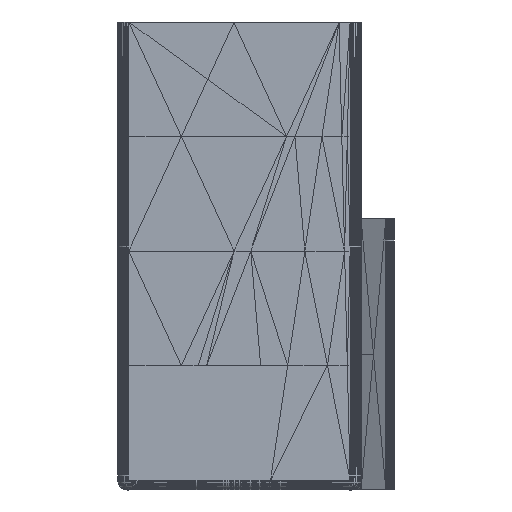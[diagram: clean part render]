
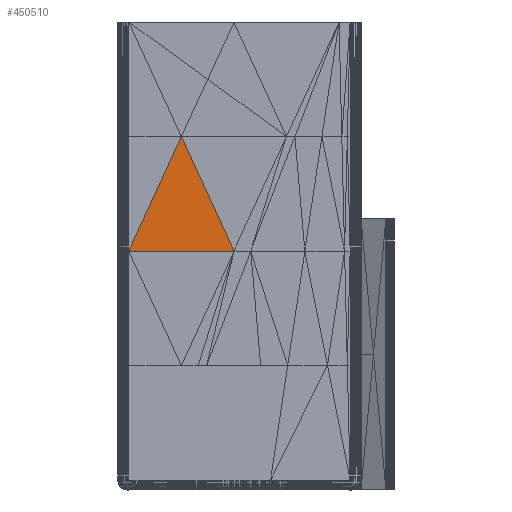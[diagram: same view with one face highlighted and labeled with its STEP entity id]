
A CAD part, front view. The second image highlights one B-rep face of the part: STEP entity #450510.
In plain terms, the highlighted planar face has unit normal (0, -1, 0).
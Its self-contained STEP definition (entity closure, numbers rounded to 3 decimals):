
#47155 = VERTEX_POINT('',#47156);
#47156 = CARTESIAN_POINT('',(-1.995,-9.996,
    21.6));
#47163 = PLANE('',#47164);
#47164 = AXIS2_PLACEMENT_3D('',#47165,#47166,#47167);
#47165 = CARTESIAN_POINT('',(-6.745,-9.998,
    17.948));
#47166 = DIRECTION('',(0.,-1.,
    0.));
#47167 = DIRECTION('',(-1.,0.,
    0.));
#47186 = EDGE_CURVE('',#47155,#47187,#47189,.T.);
#47187 = VERTEX_POINT('',#47188);
#47188 = CARTESIAN_POINT('',(-11.495,-10.,
    21.6));
#47189 = SURFACE_CURVE('',#47190,(#47194,#47201),.PCURVE_S1.);
#47190 = LINE('',#47191,#47192);
#47191 = CARTESIAN_POINT('',(-1.995,-9.996,
    21.6));
#47192 = VECTOR('',#47193,1.);
#47193 = DIRECTION('',(-1.,0.,0.));
#47194 = PCURVE('',#47163,#47195);
#47195 = DEFINITIONAL_REPRESENTATION('',(#47196),#47200);
#47196 = LINE('',#47197,#47198);
#47197 = CARTESIAN_POINT('',(-4.75,-3.652));
#47198 = VECTOR('',#47199,1.);
#47199 = DIRECTION('',(1.,0.));
#47200 = ( GEOMETRIC_REPRESENTATION_CONTEXT(2) 
PARAMETRIC_REPRESENTATION_CONTEXT() REPRESENTATION_CONTEXT('2D SPACE',''
  ) );
#47201 = PCURVE('',#47202,#47207);
#47202 = PLANE('',#47203);
#47203 = AXIS2_PLACEMENT_3D('',#47204,#47205,#47206);
#47204 = CARTESIAN_POINT('',(-6.745,-9.998,
    25.252));
#47205 = DIRECTION('',(0.,-1.,
    0.));
#47206 = DIRECTION('',(-1.,0.,
    0.));
#47207 = DEFINITIONAL_REPRESENTATION('',(#47208),#47211);
#47208 = B_SPLINE_CURVE_WITH_KNOTS('',1,(#47209,#47210),.UNSPECIFIED.,
  .F.,.F.,(2,2),(0.,9.5),.PIECEWISE_BEZIER_KNOTS.);
#47209 = CARTESIAN_POINT('',(-4.75,3.652));
#47210 = CARTESIAN_POINT('',(4.75,3.652));
#47211 = ( GEOMETRIC_REPRESENTATION_CONTEXT(2) 
PARAMETRIC_REPRESENTATION_CONTEXT() REPRESENTATION_CONTEXT('2D SPACE',''
  ) );
#411159 = PLANE('',#411160);
#411160 = AXIS2_PLACEMENT_3D('',#411161,#411162,#411163);
#411161 = CARTESIAN_POINT('',(-1.995,-9.997,
    28.298));
#411162 = DIRECTION('',(0.,-1.,
    0.));
#411163 = DIRECTION('',(-1.,0.,
    0.));
#450510 = ADVANCED_FACE('',(#450511),#47202,.T.);
#450511 = FACE_BOUND('',#450512,.T.);
#450512 = EDGE_LOOP('',(#450513,#450514,#450536));
#450513 = ORIENTED_EDGE('',*,*,#47186,.F.);
#450514 = ORIENTED_EDGE('',*,*,#450515,.T.);
#450515 = EDGE_CURVE('',#47155,#450516,#450518,.T.);
#450516 = VERTEX_POINT('',#450517);
#450517 = CARTESIAN_POINT('',(-6.745,-9.998,
    31.95));
#450518 = SURFACE_CURVE('',#450519,(#450523,#450530),.PCURVE_S1.);
#450519 = LINE('',#450520,#450521);
#450520 = CARTESIAN_POINT('',(-1.995,-9.996,
    21.6));
#450521 = VECTOR('',#450522,1.);
#450522 = DIRECTION('',(-0.417,0.,
    0.909));
#450523 = PCURVE('',#47202,#450524);
#450524 = DEFINITIONAL_REPRESENTATION('',(#450525),#450529);
#450525 = LINE('',#450526,#450527);
#450526 = CARTESIAN_POINT('',(-4.75,3.652));
#450527 = VECTOR('',#450528,1.);
#450528 = DIRECTION('',(0.417,-0.909));
#450529 = ( GEOMETRIC_REPRESENTATION_CONTEXT(2) 
PARAMETRIC_REPRESENTATION_CONTEXT() REPRESENTATION_CONTEXT('2D SPACE',''
  ) );
#450530 = PCURVE('',#411159,#450531);
#450531 = DEFINITIONAL_REPRESENTATION('',(#450532),#450535);
#450532 = B_SPLINE_CURVE_WITH_KNOTS('',1,(#450533,#450534),
  .UNSPECIFIED.,.F.,.F.,(2,2),(0.,11.388),
  .PIECEWISE_BEZIER_KNOTS.);
#450533 = CARTESIAN_POINT('',(0.,6.698));
#450534 = CARTESIAN_POINT('',(4.75,-3.652));
#450535 = ( GEOMETRIC_REPRESENTATION_CONTEXT(2) 
PARAMETRIC_REPRESENTATION_CONTEXT() REPRESENTATION_CONTEXT('2D SPACE',''
  ) );
#450536 = ORIENTED_EDGE('',*,*,#450537,.F.);
#450537 = EDGE_CURVE('',#47187,#450516,#450538,.T.);
#450538 = SURFACE_CURVE('',#450539,(#450543,#450549),.PCURVE_S1.);
#450539 = LINE('',#450540,#450541);
#450540 = CARTESIAN_POINT('',(-11.495,-10.,
    21.6));
#450541 = VECTOR('',#450542,1.);
#450542 = DIRECTION('',(0.417,0.,0.909
    ));
#450543 = PCURVE('',#47202,#450544);
#450544 = DEFINITIONAL_REPRESENTATION('',(#450545),#450548);
#450545 = B_SPLINE_CURVE_WITH_KNOTS('',1,(#450546,#450547),
  .UNSPECIFIED.,.F.,.F.,(2,2),(0.,11.388),
  .PIECEWISE_BEZIER_KNOTS.);
#450546 = CARTESIAN_POINT('',(4.75,3.652));
#450547 = CARTESIAN_POINT('',(0.,-6.698));
#450548 = ( GEOMETRIC_REPRESENTATION_CONTEXT(2) 
PARAMETRIC_REPRESENTATION_CONTEXT() REPRESENTATION_CONTEXT('2D SPACE',''
  ) );
#450549 = PCURVE('',#450550,#450555);
#450550 = PLANE('',#450551);
#450551 = AXIS2_PLACEMENT_3D('',#450552,#450553,#450554);
#450552 = CARTESIAN_POINT('',(-10.048,-9.999,
    27.703));
#450553 = DIRECTION('',(-0.,-1.,0.));
#450554 = DIRECTION('',(0.,0.,-1.));
#450555 = DEFINITIONAL_REPRESENTATION('',(#450556),#450560);
#450556 = LINE('',#450557,#450558);
#450557 = CARTESIAN_POINT('',(6.103,-1.447));
#450558 = VECTOR('',#450559,1.);
#450559 = DIRECTION('',(-0.909,0.417));
#450560 = ( GEOMETRIC_REPRESENTATION_CONTEXT(2) 
PARAMETRIC_REPRESENTATION_CONTEXT() REPRESENTATION_CONTEXT('2D SPACE',''
  ) );
